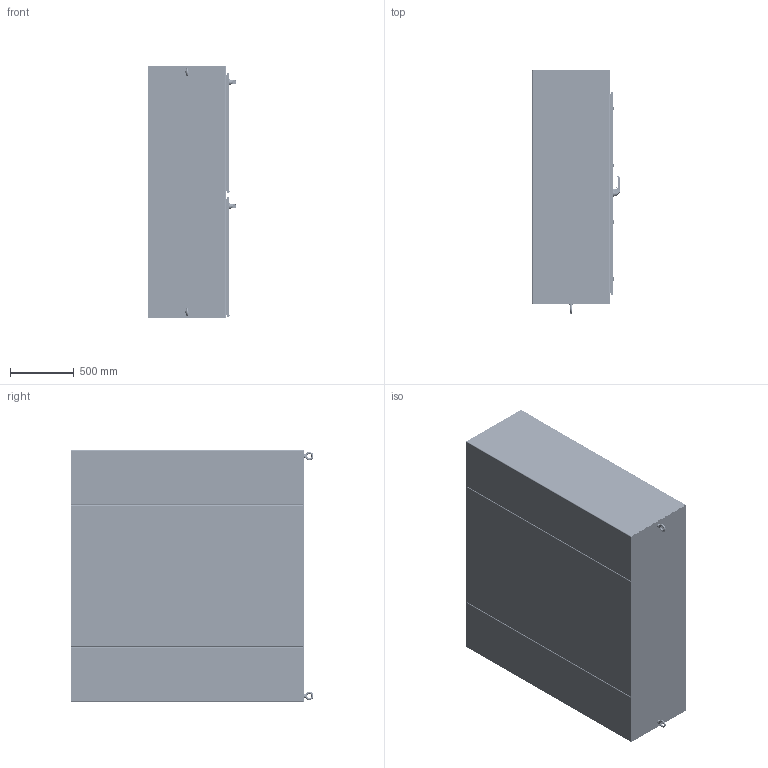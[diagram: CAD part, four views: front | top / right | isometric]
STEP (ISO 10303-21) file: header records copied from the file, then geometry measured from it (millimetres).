
FILE_DESCRIPTION((''),'2;1');
FILE_NAME('MODEL-218_ASM','2024-06-10T12:37:31',('johnh'),('SAGINAW CONTROL & ENGINEERING'),'CREO PARAMETRIC BY PTC INC, 2021284','CREO PARAMETRIC BY PTC INC, 2021284','');
FILE_SCHEMA(('AUTOMOTIVE_DESIGN { 1 0 10303 214 1 1 1 1 }'));
Length unit declared in the file: inch
Products named in the file (118): MODEL-218-TP; MODEL-218-R-SD; MODEL-218-L-SD; MODEL-218-BTM; MODEL-218-BCK; MODEL-218-M-DR; 100837; 111267; 100882; 100953_SCREW_MTG; 100953_PADLOCK_CATCH; 100953_SCREW_LARGE; 100953_INSERT_SHAFT; 100953_INSERT_PCH; 100953_GASKET; 100953_O-RING; 100953_BASE; 100953_SPRING; 100953_HANDLE; 100953_CAM_SHAFT; 100953_HANDLE_ASM; 100953_CAM_ADAPTER; 100953_EARTH_NUT; 100953_FLANGE_NUT; 100953_CAM_NUT; 100953_CP_INSERT; 100953_SPRING_CAM; 100953_TORSION_SPRING; 100953_SCREW_INSERT; 100953_ASM; 102237; 100030; 102237_ASM; MODEL-218-ROD-UPR-MD; 128146; 128145; 128144; 102482; MODEL-218-ROD-UPR-MD_ASM; 128143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
Assembly tree (250 placements, depth 5):
  MODEL-218_ASM
    MODEL-218-TP
    MODEL-218-R-SD
    MODEL-218-L-SD
    MODEL-218-BTM
    MODEL-218-BCK
    MODEL-218-M-DOOR-ASSY_ASM
      MODEL-218-M-DR
      100837  x7
      111267
      100882  x12
      100953_ASM
        100953_SCREW_MTG
        100953_PADLOCK_CATCH
        100953_SCREW_LARGE  x2
        100953_INSERT_SHAFT
        100953_INSERT_PCH
        100953_GASKET
        100953_O-RING
        100953_BASE
        100953_SPRING
        100953_HANDLE_ASM
          100953_HANDLE
          100953_CAM_SHAFT
        100953_CAM_ADAPTER
        100953_EARTH_NUT
        100953_FLANGE_NUT
        100953_CAM_NUT
        100953_CP_INSERT
        100953_SPRING_CAM
        100953_TORSION_SPRING
        100953_SCREW_INSERT
      102237_ASM
        102237
        100030  x2
      MODEL-218-ROD-UPR-MD_ASM
        MODEL-218-ROD-UPR-MD
        128146
        128145
        128144
        102482  x2
      128143  x2
      112504  x2
      MODEL-218-ROD-LWR-MD_ASM
        MODEL-218-ROD-LWR-MD
        128146
        128145
        128144
        102482  x2
      MODEL-218-PR-GSKT-M
      128257_ASM  x4
        128257
      126393  x4
      102483  x4
      101369_ASM  x4
        101369
        101369-STUD
      101221  x4
    MODEL-218-S-DOOR-ASSY_ASM
      MODEL-218-S-DR
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Bounding box: 687.67 x 1903.6 x 1974.85 mm (x, y, z)
Volume: 51774652.7 mm3; surface area: 33699125.9 mm2
Topology: 279 solids, 279 shells, 26567 faces, 67432 edges, 41448 vertices
Faces by surface type: plane 9096, cylinder 7048, bspline 5809, torus 2122, cone 1355, sphere 812, extrusion 325
Entity records: 805548 total; most frequent: CARTESIAN_POINT 363930, ORIENTED_EDGE 69134, DIRECTION 63165, PRESENTATION_STYLE_ASSIGNMENT 34737, STYLED_ITEM 34685, CURVE_STYLE 34567, EDGE_CURVE 34567, AXIS2_PLACEMENT_3D 23452
